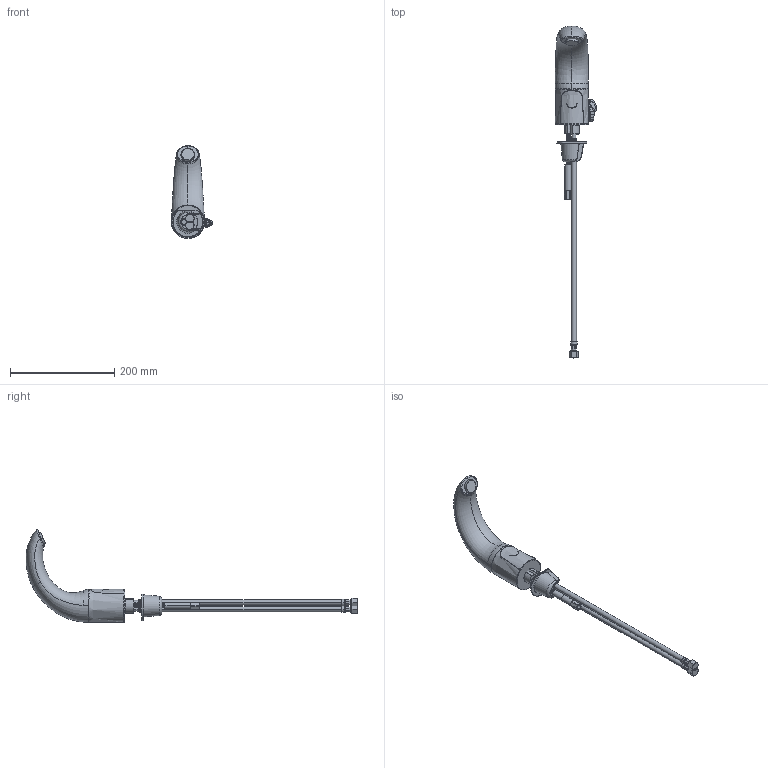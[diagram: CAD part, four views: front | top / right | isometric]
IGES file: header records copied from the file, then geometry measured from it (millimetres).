
Start section:  PTC IGES file: 116-222-AB-1_REV030910.igs
Global section: file name: 116-222-AB-1_REV030910.igs; native system: Pro/ENGINEER by Parametric Technology Corporation; preprocessor: 2009230; author: sdmitruk; organization: Unknown; date: 20100309.074823; units: inch
Bounding box: 79.23 x 636.15 x 177.95 mm (x, y, z)
Surface area: 106893.8 mm2 (no closed solid volume)
Topology: 0 solids, 37 shells, 638 faces, 1860 edges, 1208 vertices
Faces by surface type: revolution 324, bspline 314
